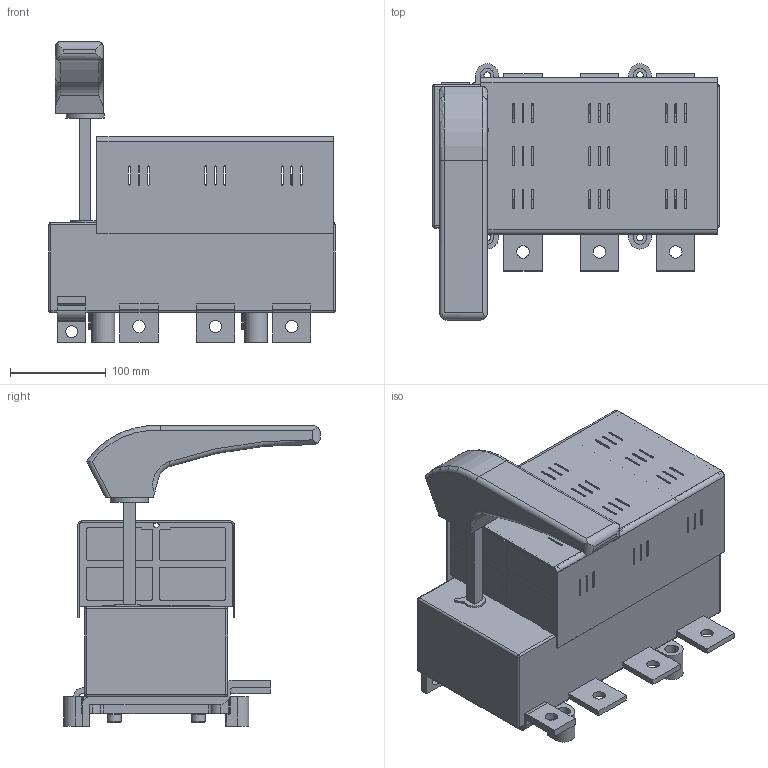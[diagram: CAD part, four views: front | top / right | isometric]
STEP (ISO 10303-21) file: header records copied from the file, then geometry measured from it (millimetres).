
FILE_DESCRIPTION(/* description */ (''),/* implementation_level */ '2;1');
FILE_NAME(/* name */ 'RAB 3 P3 NB-R.stp',/* time_stamp */ '2021-08-19T14:58:45+02:00',/* author */ (''),/* organization */ (''),/* preprocessor_version */ 'ST-DEVELOPER v18.1',/* originating_system */ 'SIEMENS PLM Software NX 1965',/* authorisation */ '');
FILE_SCHEMA (('AUTOMOTIVE_DESIGN { 1 0 10303 214 3 1 1 1 }'));
Length unit declared in the file: millimetre
Products named in the file (1): RAB 3 P3 NB-R_stp
Bounding box: 300 x 269 x 314.5 mm (x, y, z)
Volume: 4973045.2 mm3; surface area: 687702.1 mm2
Topology: 1 solids, 14 shells, 1606 faces, 4351 edges, 2788 vertices
Faces by surface type: plane 924, cylinder 566, torus 50, bspline 50, cone 8, sphere 8
Full cylindrical faces by diameter (mm): 3 x4, 4.8 x4, 5.2 x2, 5.6 x4, 6.5 x26, 7 x4, 10.5 x26, 12.5 x1, 13 x7, 13.5 x4, 14 x4, 15 x4, 40 x1
Entity records: 52437 total; most frequent: CARTESIAN_POINT 11805, DIRECTION 8410, ORIENTED_EDGE 8390, EDGE_CURVE 4195, LINE 2826, VECTOR 2826, AXIS2_PLACEMENT_3D 2792, VERTEX_POINT 2759
